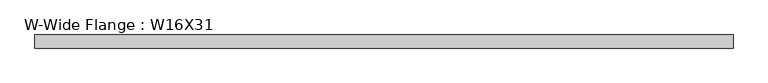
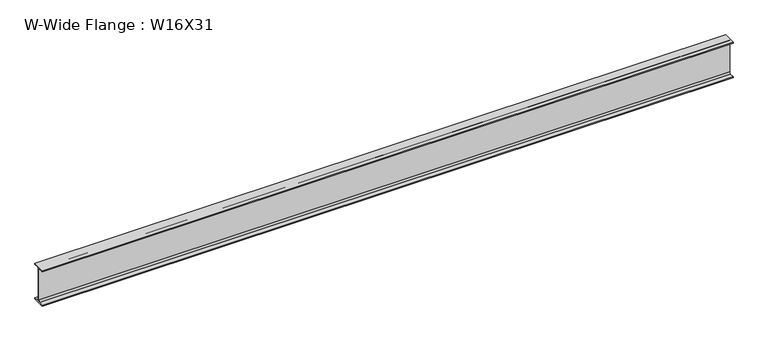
"""IFC4 building model written with IfcOpenShell, lengths in millimetres: beam geometry, W-Wide Flange : W16X31."""

from ifc_helpers import new_model, si_unit, point, frame, frame_2d, origin, place, context, project, spatial, polyline, circle_curve, trimmed, segment, composite_curve, outline, extrude, source, transform, mapped, element, save


def w_wide_flange_w16x31_e54a2e1a(model_context):
    return source(origin(), model_context, "Body", "SweptSolid", [
        extrude(outline(composite_curve([segment(polyline([(70.231, -190.754), (70.231, -201.93), (-70.231, -201.93), (-70.231, -190.754), (-20.8915, -190.754)]), True, "CONTINUOUS"), segment(trimmed(circle_curve(frame_2d((-20.8915, -173.355)), 17.399), [point((-20.8915, -190.754))], [point((-3.4925, -173.355))], True, "CARTESIAN"), True, "CONTINUOUS"), segment(polyline([(-3.4925, -173.355), (-3.4925, 173.355)]), True, "CONTINUOUS"), segment(trimmed(circle_curve(frame_2d((-20.8915, 173.355)), 17.399), [point((-3.4925, 173.355))], [point((-20.8915, 190.754))], True, "CARTESIAN"), True, "CONTINUOUS"), segment(polyline([(-20.8915, 190.754), (-70.231, 190.754), (-70.231, 201.93), (70.231, 201.93), (70.231, 190.754), (20.8915, 190.754)]), True, "CONTINUOUS"), segment(trimmed(circle_curve(frame_2d((20.8915, 173.355)), 17.399), [point((20.8915, 190.754))], [point((3.4925, 173.355))], True, "CARTESIAN"), True, "CONTINUOUS"), segment(polyline([(3.4925, 173.355), (3.4925, -173.355)]), True, "CONTINUOUS"), segment(trimmed(circle_curve(frame_2d((20.8915, -173.355)), 17.399), [point((3.4925, -173.355))], [point((20.8915, -190.754))], True, "CARTESIAN"), True, "CONTINUOUS"), segment(polyline([(20.8915, -190.754), (70.231, -190.754)]), True, "CONTINUOUS")], self_intersect=False)), frame((-3714.5535319, 0.0, 0.0), z_axis=(1.0, 0.0, 0.0), x_axis=(0.0, 1.0, 0.0)), (0.0, 0.0, 1.0), 7444.0959781),
    ])


if __name__ == "__main__":
    model = new_model("IFC4")
    model_context = context("Model", 3, world=origin())
    ifc_project = project(units=[si_unit("LENGTHUNIT", "METRE", prefix="MILLI")], contexts=[model_context])
    site = spatial("IfcSite", under=ifc_project)
    building = spatial("IfcBuilding", under=site)
    placement = place(None, origin())
    w_wide_flange_w16x31_shape = w_wide_flange_w16x31_e54a2e1a(model_context)
    element("IfcBeam", 1, ObjectType="W-Wide Flange : W16X31", at=placement, inside=building, context=model_context, shape_type="MappedRepresentation", body=[
        mapped(w_wide_flange_w16x31_shape, transform((0.0, 0.0, 0.0), x_axis=(1.0, 0.0, 0.0), y_axis=(0.0, 1.0, 0.0), z_axis=(0.0, 0.0, 1.0))),
    ])
    save(model, "model.ifc")
